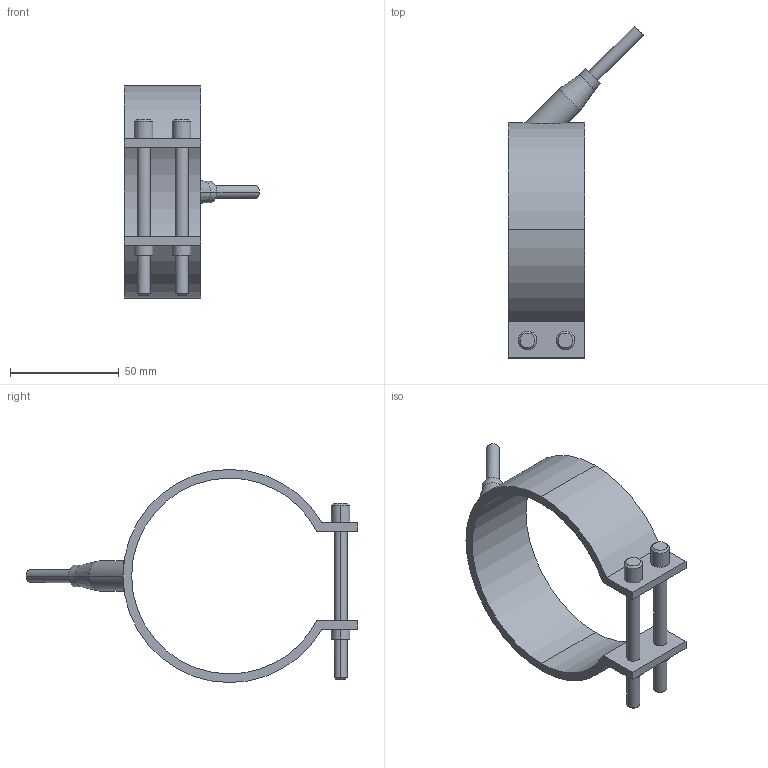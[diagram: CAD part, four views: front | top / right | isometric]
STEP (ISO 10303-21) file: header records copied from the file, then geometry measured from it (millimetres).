
FILE_DESCRIPTION(('CATIA V5 STEP Exchange'),'2;1');
FILE_NAME('C:\Users\Utente\Desktop\IO LAVORO\3D X SITO CF\X SITO\PLASTICA\RF1\29090035.stp','2021-03-29T17:59:59+00:00',('none'),('none'),'CATIA Version 5 Release 20 GA (IN-10)','CATIA V5 STEP AP203','none');
FILE_SCHEMA(('CONFIG_CONTROL_DESIGN'));
Length unit declared in the file: millimetre
Products named in the file (1): 29090035
Bounding box: 62.05 x 152.55 x 98 mm (x, y, z)
Volume: 49413.7 mm3; surface area: 26881.3 mm2
Topology: 1 solids, 1 shells, 54 faces, 123 edges, 79 vertices
Faces by surface type: cylinder 28, plane 16, cone 10
Entity records: 1734 total; most frequent: CARTESIAN_POINT 502, ORIENTED_EDGE 246, DIRECTION 213, EDGE_CURVE 123, AXIS2_PLACEMENT_3D 106, VERTEX_POINT 79, EDGE_LOOP 66, VECTOR 56
